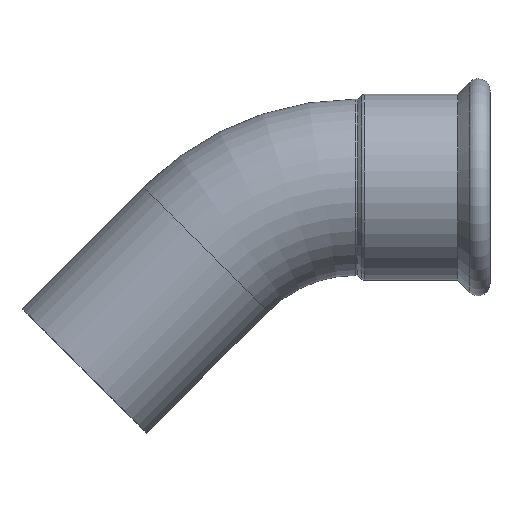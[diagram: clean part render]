
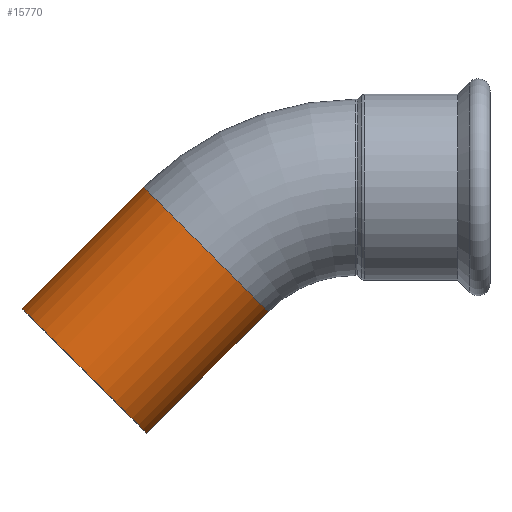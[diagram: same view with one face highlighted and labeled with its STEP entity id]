
A CAD part, top view. The second image highlights one B-rep face of the part: STEP entity #15770.
In plain terms, the highlighted cylindrical face has radius 44.45 mm (diameter 88.9 mm), a partial arc.
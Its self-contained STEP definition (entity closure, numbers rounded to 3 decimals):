
#13890=CARTESIAN_POINT('',(-40.909,-62.77,
0.));
#13900=VERTEX_POINT('',#13890);
#13990=CARTESIAN_POINT('',(-103.77,0.091,
0.));
#14000=VERTEX_POINT('',#13990);
#14030=CARTESIAN_POINT('',(-72.34,-31.34,0.));
#14040=DIRECTION('',(0.707,0.707,0.));
#14050=DIRECTION('',(-0.707,0.707,0.));
#14060=AXIS2_PLACEMENT_3D('',#14030,#14040,#14050);
#14070=CIRCLE('',#14060,44.45);
#14130=CARTESIAN_POINT('',(-72.34,-31.34,0.));
#14140=DIRECTION('',(0.707,0.707,0.));
#14150=DIRECTION('',(-0.707,0.707,0.));
#14160=AXIS2_PLACEMENT_3D('',#14130,#14140,#14150);
#14170=CYLINDRICAL_SURFACE('',#14160,44.45);
#14180=CARTESIAN_POINT('',(-40.909,-62.77,
0.));
#14190=DIRECTION('',(0.707,0.707,0.));
#14200=VECTOR('',#14190,1.);
#14210=LINE('',#14180,#14200);
#14220=CARTESIAN_POINT('',(-102.2,-124.062,
0.));
#14230=VERTEX_POINT('',#14220);
#14240=EDGE_CURVE('',#14230,#13900,#14210,.T.);
#14270=CARTESIAN_POINT('',(-103.77,0.091,0.));
#14280=DIRECTION('',(0.707,0.707,0.));
#14290=VECTOR('',#14280,1.);
#14300=LINE('',#14270,#14290);
#14310=CARTESIAN_POINT('',(-165.062,-61.2,0.));
#14320=VERTEX_POINT('',#14310);
#14330=EDGE_CURVE('',#14320,#14000,#14300,.T.);
#14350=CARTESIAN_POINT('',(-133.631,-92.631,0.));
#14360=DIRECTION('',(0.707,0.707,0.));
#14370=DIRECTION('',(-0.707,0.707,0.));
#14380=AXIS2_PLACEMENT_3D('',#14350,#14360,#14370);
#14390=CIRCLE('',#14380,44.45);
#14500=EDGE_CURVE('',#14320,#14230,#14390,.T.);
#15700=EDGE_CURVE('',#14000,#13900,#14070,.T.);
#15710=ORIENTED_EDGE('',*,*,#15700,.F.);
#15720=ORIENTED_EDGE('',*,*,#14240,.T.);
#15730=ORIENTED_EDGE('',*,*,#14500,.T.);
#15740=ORIENTED_EDGE('',*,*,#14330,.F.);
#15750=EDGE_LOOP('',(#15740,#15730,#15720,#15710));
#15760=FACE_OUTER_BOUND('',#15750,.T.);
#15770=ADVANCED_FACE('',(#15760),#14170,.T.);
